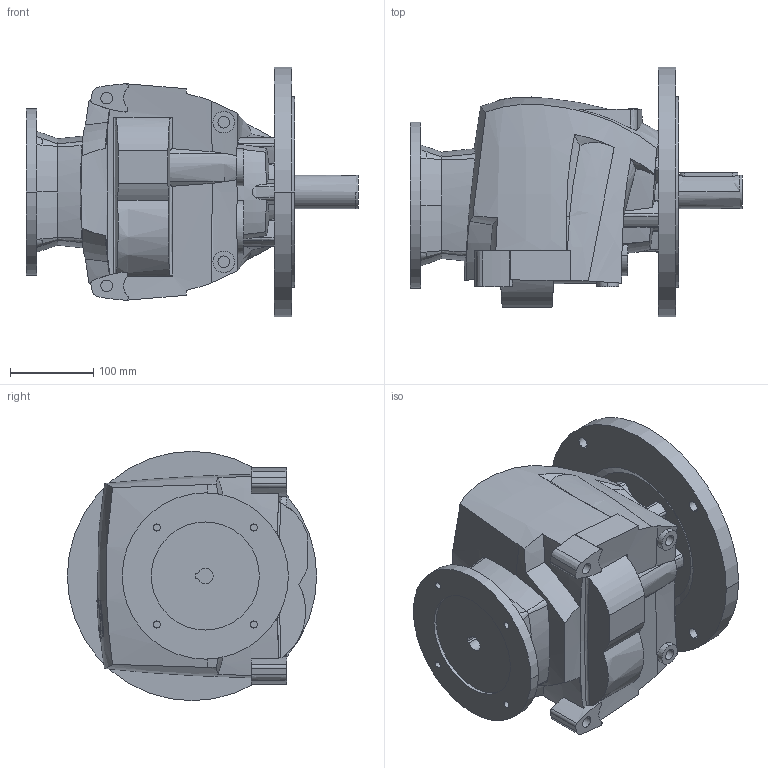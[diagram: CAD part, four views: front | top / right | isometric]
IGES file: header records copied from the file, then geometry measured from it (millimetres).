
Start section:  PTC IGES file: r40_300_pam80.igs
Global section: file name: r40_300_pam80.igs; native system: Pro/ENGINEER by Parametric Technology Corporation; preprocessor: 2008230; author: Luca; organization: Unknown; date: 20131127.144033; units: millimetre
Bounding box: 399.5 x 300 x 300 mm (x, y, z)
Volume: 12356660.1 mm3; surface area: 523777.1 mm2
Topology: 1 solids, 8 shells, 454 faces, 1208 edges, 808 vertices
Faces by surface type: bspline 219, revolution 198, extrusion 37
